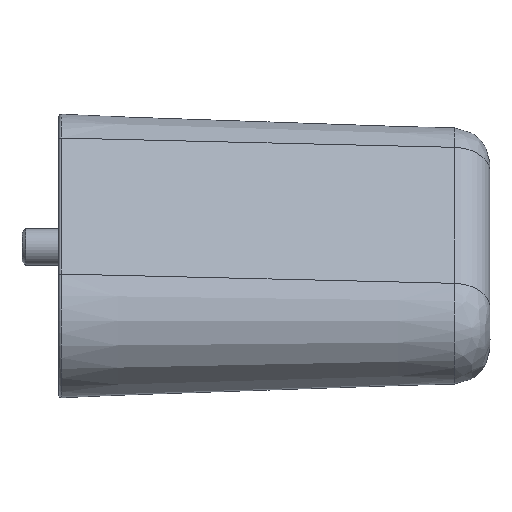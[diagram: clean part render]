
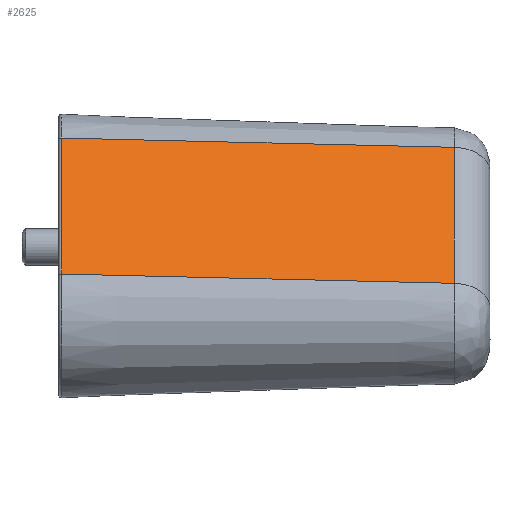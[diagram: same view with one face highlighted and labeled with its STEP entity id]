
A CAD part, top view. The second image highlights one B-rep face of the part: STEP entity #2625.
In plain terms, the highlighted planar face has unit normal (0.035, 0.675, 0.737).
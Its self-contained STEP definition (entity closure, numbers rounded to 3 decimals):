
#835=DIRECTION('',(0.,-0.737,0.676));
#836=VECTOR('',#835,15.);
#837=CARTESIAN_POINT('',(118.586,476.205,108.909));
#838=LINE('',#837,#836);
#839=DIRECTION('',(0.,0.737,-0.676));
#840=VECTOR('',#839,15.);
#841=CARTESIAN_POINT('',(150.473,464.393,118.222));
#842=LINE('',#841,#840);
#843=DIRECTION('',(-0.999,0.024,0.026));
#844=VECTOR('',#843,31.907);
#845=CARTESIAN_POINT('',(150.473,464.393,118.222));
#846=LINE('',#845,#844);
#857=DIRECTION('',(-0.999,0.024,0.026));
#858=VECTOR('',#857,31.907);
#859=CARTESIAN_POINT('',(150.473,475.452,108.088));
#860=LINE('',#859,#858);
#1016=CARTESIAN_POINT('',(150.473,464.393,118.222));
#1017=CARTESIAN_POINT('',(150.473,475.452,108.088));
#1018=VERTEX_POINT('',#1016);
#1019=VERTEX_POINT('',#1017);
#1032=CARTESIAN_POINT('',(118.586,476.205,108.909));
#1033=CARTESIAN_POINT('',(118.586,465.145,119.043));
#1034=VERTEX_POINT('',#1032);
#1035=VERTEX_POINT('',#1033);
#2611=CARTESIAN_POINT('',(118.403,479.895,105.536));
#2612=DIRECTION('',(0.035,0.675,0.737));
#2613=DIRECTION('',(0.,-0.737,0.676));
#2614=AXIS2_PLACEMENT_3D('',#2611,#2612,#2613);
#2615=PLANE('',#2614);
#2616=ORIENTED_EDGE('',*,*,#2601,.F.);
#2618=ORIENTED_EDGE('',*,*,#2617,.F.);
#2620=ORIENTED_EDGE('',*,*,#2619,.F.);
#2622=ORIENTED_EDGE('',*,*,#2621,.T.);
#2623=EDGE_LOOP('',(#2616,#2618,#2620,#2622));
#2624=FACE_OUTER_BOUND('',#2623,.F.);
#2625=ADVANCED_FACE('',(#2624),#2615,.T.);
#2601=EDGE_CURVE('',#1034,#1035,#838,.T.);
#2617=EDGE_CURVE('',#1019,#1034,#860,.T.);
#2619=EDGE_CURVE('',#1018,#1019,#842,.T.);
#2621=EDGE_CURVE('',#1018,#1035,#846,.T.);
